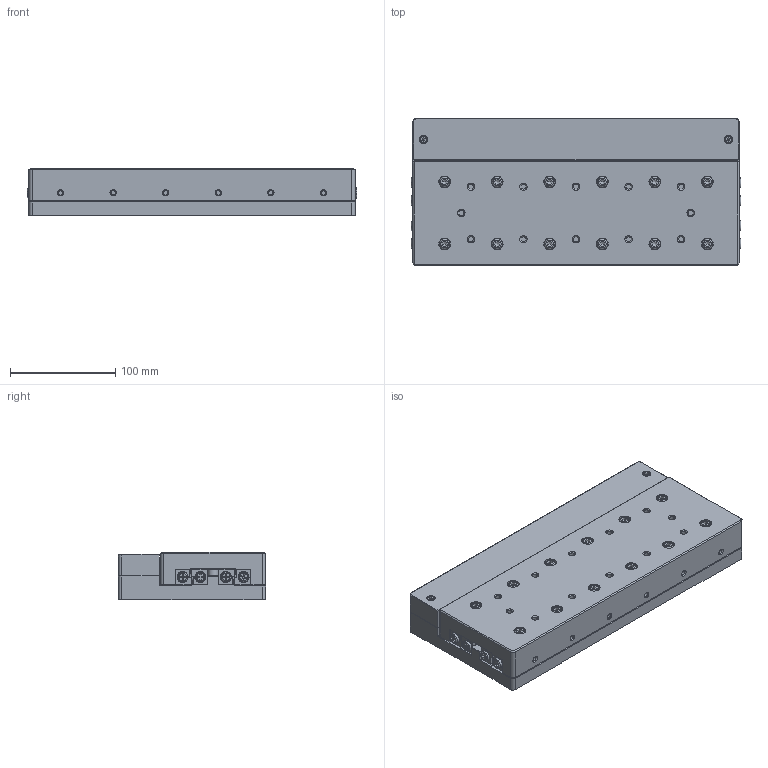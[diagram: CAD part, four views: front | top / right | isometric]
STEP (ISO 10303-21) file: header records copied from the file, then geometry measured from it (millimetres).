
FILE_DESCRIPTION (( 'STEP AP203' ), '1' );
FILE_NAME ('ls6-310200_jc.STEP', '2023-04-26T02:57:10', ( '微软用户' ), ( '微软中国' ), 'SwSTEP 2.0', 'SolidWorks 2021', '' );
FILE_SCHEMA (( 'CONFIG_CONTROL_DESIGN' ));
Length unit declared in the file: millimetre
Products named in the file (24): VR6_300HX20Z_0__AF0_ASM; 0_GB_FASTENER_SCREWS_HSHCS M4X6-N; hex lobular socket head cap screws-8.8 gb_GB_HEXAGON_TYPE22 M6X10-N; GSZJ_ATOM03-1; M6X10; M-9677-2501-01_A_ASM; M-9677-2500-01_A; VR6_300_20Z_ROLLER_CAGE; VR6_300_20ZR1; cross recessed cheese head screws gb_GB_CROSS_SCREWS_TYPE2 M6X10-10  H type-N; JZ_LS6-310200_JM316; ls6-310200_jc; HT_LS6-310200_JM316; 308V1; YYDP_31; hexagon socket head cap screws gb_GB_FASTENER_SCREWS_HSHCS M6X10-N; GAI_LS6-310200_JM316; VR6_300HX20Z_0__AF1_ASM; VR6_300_20Z_ROLLER_GUIDE; M-9693-2491-02_A_2; M-9693-2491-02_A_1; hexagon socket button head screws gb_GB_SOCKET_TYPE7 M3X8-N; M-9693-2491-02_A_ASM; MCP_300-2_8
Assembly tree (61 placements, depth 4):
  ls6-310200_jc
    JZ_LS6-310200_JM316
    VR6_300HX20Z_0__AF0_ASM
      VR6_300_20Z_ROLLER_GUIDE
      VR6_300_20Z_ROLLER_CAGE
      VR6_300_20ZR1
    VR6_300HX20Z_0__AF1_ASM
      VR6_300_20Z_ROLLER_GUIDE
      VR6_300_20Z_ROLLER_CAGE
      VR6_300_20ZR1
    HT_LS6-310200_JM316
    MCP_300-2_8
    M6X10  x2
    YYDP_31
    308V1
    M-9677-2501-01_A_ASM
      M-9677-2500-01_A
      M-9693-2491-02_A_ASM
        M-9693-2491-02_A_1
        M-9693-2491-02_A_2
      GSZJ_ATOM03-1
    GAI_LS6-310200_JM316
    hex lobular socket head cap screws-8.8 gb_GB_HEXAGON_TYPE22 M6X10-N  x12
    0_GB_FASTENER_SCREWS_HSHCS M4X6-N  x2
    cross recessed cheese head screws gb_GB_CROSS_SCREWS_TYPE2 M6X10-10  H type-N  x8
    hexagon socket head cap screws gb_GB_FASTENER_SCREWS_HSHCS M6X10-N  x12
    hexagon socket button head screws gb_GB_SOCKET_TYPE7 M3X8-N  x5
Bounding box: 313.2 x 140 x 45 mm (x, y, z)
Volume: 1739048.9 mm3; surface area: 410757.2 mm2
Topology: 57 solids, 57 shells, 3777 faces, 9409 edges, 5927 vertices
Faces by surface type: plane 2011, cylinder 909, cone 663, bspline 100, torus 84, sphere 10
Entity records: 83228 total; most frequent: CARTESIAN_POINT 19304, ORIENTED_EDGE 12586, DIRECTION 12342, EDGE_CURVE 6293, AXIS2_PLACEMENT_3D 4155, VERTEX_POINT 4051, VECTOR 4032, LINE 4032
